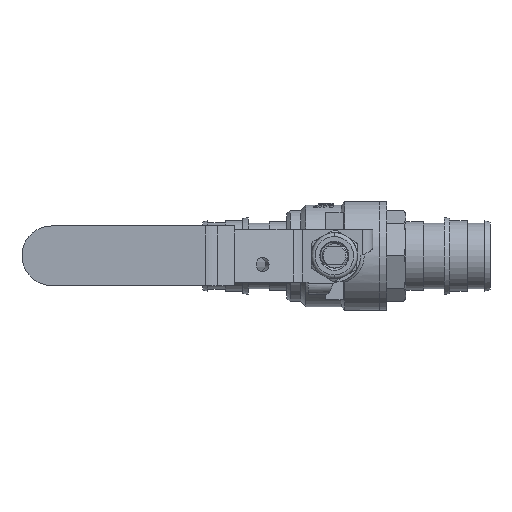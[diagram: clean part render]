
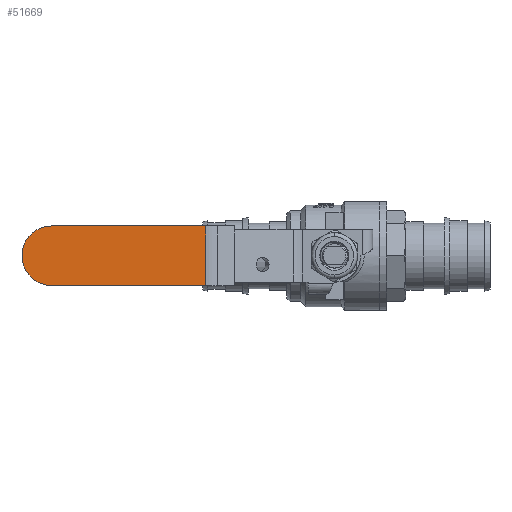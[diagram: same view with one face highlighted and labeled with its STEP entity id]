
A CAD part, top view. The second image highlights one B-rep face of the part: STEP entity #51669.
In plain terms, the highlighted planar face has unit normal (0, 0, 1).
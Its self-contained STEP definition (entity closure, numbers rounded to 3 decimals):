
#51153 = PLANE('',#51154);
#51154 = AXIS2_PLACEMENT_3D('',#51155,#51156,#51157);
#51155 = CARTESIAN_POINT('',(-36.668,-8.5,
    41.054));
#51156 = DIRECTION('',(0.,1.,0.));
#51157 = DIRECTION('',(0.,0.,-1.));
#51182 = CYLINDRICAL_SURFACE('',#51183,8.5);
#51183 = AXIS2_PLACEMENT_3D('',#51184,#51185,#51186);
#51184 = CARTESIAN_POINT('',(-80.604,0.,
    44.454));
#51185 = DIRECTION('',(0.,0.,-1.));
#51186 = DIRECTION('',(1.,0.,0.));
#51211 = CYLINDRICAL_SURFACE('',#51212,8.5);
#51212 = AXIS2_PLACEMENT_3D('',#51213,#51214,#51215);
#51213 = CARTESIAN_POINT('',(-80.604,0.,
    41.054));
#51214 = DIRECTION('',(0.,0.,1.));
#51215 = DIRECTION('',(-1.,0.,0.));
#51239 = PLANE('',#51240);
#51240 = AXIS2_PLACEMENT_3D('',#51241,#51242,#51243);
#51241 = CARTESIAN_POINT('',(-36.668,8.5,
    41.054));
#51242 = DIRECTION('',(0.,1.,0.));
#51243 = DIRECTION('',(0.,0.,-1.));
#51559 = CYLINDRICAL_SURFACE('',#51560,6.6);
#51560 = AXIS2_PLACEMENT_3D('',#51561,#51562,#51563);
#51561 = CARTESIAN_POINT('',(-36.668,-8.5,
    41.054));
#51562 = DIRECTION('',(0.,1.,0.));
#51563 = DIRECTION('',(0.,0.,-1.));
#51597 = VERTEX_POINT('',#51598);
#51598 = CARTESIAN_POINT('',(-36.668,8.5,
    47.654));
#51620 = EDGE_CURVE('',#51621,#51597,#51623,.T.);
#51621 = VERTEX_POINT('',#51622);
#51622 = CARTESIAN_POINT('',(-36.668,-8.5,
    47.654));
#51623 = SURFACE_CURVE('',#51624,(#51628,#51635),.PCURVE_S1.);
#51624 = LINE('',#51625,#51626);
#51625 = CARTESIAN_POINT('',(-36.668,-8.5,
    47.654));
#51626 = VECTOR('',#51627,1.);
#51627 = DIRECTION('',(0.,1.,0.));
#51628 = PCURVE('',#51559,#51629);
#51629 = DEFINITIONAL_REPRESENTATION('',(#51630),#51634);
#51630 = LINE('',#51631,#51632);
#51631 = CARTESIAN_POINT('',(3.142,0.));
#51632 = VECTOR('',#51633,1.);
#51633 = DIRECTION('',(0.,1.));
#51634 = ( GEOMETRIC_REPRESENTATION_CONTEXT(2) 
PARAMETRIC_REPRESENTATION_CONTEXT() REPRESENTATION_CONTEXT('2D SPACE',''
  ) );
#51635 = PCURVE('',#51636,#51641);
#51636 = PLANE('',#51637);
#51637 = AXIS2_PLACEMENT_3D('',#51638,#51639,#51640);
#51638 = CARTESIAN_POINT('',(-89.104,-8.5,
    47.654));
#51639 = DIRECTION('',(0.,0.,1.));
#51640 = DIRECTION('',(-1.,0.,0.));
#51641 = DEFINITIONAL_REPRESENTATION('',(#51642),#51646);
#51642 = LINE('',#51643,#51644);
#51643 = CARTESIAN_POINT('',(-52.436,-0.));
#51644 = VECTOR('',#51645,1.);
#51645 = DIRECTION('',(0.,-1.));
#51646 = ( GEOMETRIC_REPRESENTATION_CONTEXT(2) 
PARAMETRIC_REPRESENTATION_CONTEXT() REPRESENTATION_CONTEXT('2D SPACE',''
  ) );
#51669 = ADVANCED_FACE('',(#51670),#51636,.T.);
#51670 = FACE_BOUND('',#51671,.T.);
#51671 = EDGE_LOOP('',(#51672,#51698,#51722,#51743,#51744));
#51672 = ORIENTED_EDGE('',*,*,#51673,.T.);
#51673 = EDGE_CURVE('',#51674,#51676,#51678,.T.);
#51674 = VERTEX_POINT('',#51675);
#51675 = CARTESIAN_POINT('',(-80.604,8.5,
    47.654));
#51676 = VERTEX_POINT('',#51677);
#51677 = CARTESIAN_POINT('',(-89.104,0.,
    47.654));
#51678 = SURFACE_CURVE('',#51679,(#51684,#51691),.PCURVE_S1.);
#51679 = CIRCLE('',#51680,8.5);
#51680 = AXIS2_PLACEMENT_3D('',#51681,#51682,#51683);
#51681 = CARTESIAN_POINT('',(-80.604,0.,
    47.654));
#51682 = DIRECTION('',(0.,0.,1.));
#51683 = DIRECTION('',(-1.,0.,0.));
#51684 = PCURVE('',#51636,#51685);
#51685 = DEFINITIONAL_REPRESENTATION('',(#51686),#51690);
#51686 = CIRCLE('',#51687,8.5);
#51687 = AXIS2_PLACEMENT_2D('',#51688,#51689);
#51688 = CARTESIAN_POINT('',(-8.5,-8.5));
#51689 = DIRECTION('',(1.,0.));
#51690 = ( GEOMETRIC_REPRESENTATION_CONTEXT(2) 
PARAMETRIC_REPRESENTATION_CONTEXT() REPRESENTATION_CONTEXT('2D SPACE',''
  ) );
#51691 = PCURVE('',#51211,#51692);
#51692 = DEFINITIONAL_REPRESENTATION('',(#51693),#51697);
#51693 = LINE('',#51694,#51695);
#51694 = CARTESIAN_POINT('',(0.,6.6));
#51695 = VECTOR('',#51696,1.);
#51696 = DIRECTION('',(1.,0.));
#51697 = ( GEOMETRIC_REPRESENTATION_CONTEXT(2) 
PARAMETRIC_REPRESENTATION_CONTEXT() REPRESENTATION_CONTEXT('2D SPACE',''
  ) );
#51698 = ORIENTED_EDGE('',*,*,#51699,.T.);
#51699 = EDGE_CURVE('',#51676,#51700,#51702,.T.);
#51700 = VERTEX_POINT('',#51701);
#51701 = CARTESIAN_POINT('',(-80.604,-8.5,
    47.654));
#51702 = SURFACE_CURVE('',#51703,(#51708,#51715),.PCURVE_S1.);
#51703 = CIRCLE('',#51704,8.5);
#51704 = AXIS2_PLACEMENT_3D('',#51705,#51706,#51707);
#51705 = CARTESIAN_POINT('',(-80.604,0.,
    47.654));
#51706 = DIRECTION('',(0.,0.,1.));
#51707 = DIRECTION('',(-1.,0.,0.));
#51708 = PCURVE('',#51636,#51709);
#51709 = DEFINITIONAL_REPRESENTATION('',(#51710),#51714);
#51710 = CIRCLE('',#51711,8.5);
#51711 = AXIS2_PLACEMENT_2D('',#51712,#51713);
#51712 = CARTESIAN_POINT('',(-8.5,-8.5));
#51713 = DIRECTION('',(1.,0.));
#51714 = ( GEOMETRIC_REPRESENTATION_CONTEXT(2) 
PARAMETRIC_REPRESENTATION_CONTEXT() REPRESENTATION_CONTEXT('2D SPACE',''
  ) );
#51715 = PCURVE('',#51182,#51716);
#51716 = DEFINITIONAL_REPRESENTATION('',(#51717),#51721);
#51717 = LINE('',#51718,#51719);
#51718 = CARTESIAN_POINT('',(3.142,-3.2));
#51719 = VECTOR('',#51720,1.);
#51720 = DIRECTION('',(-1.,0.));
#51721 = ( GEOMETRIC_REPRESENTATION_CONTEXT(2) 
PARAMETRIC_REPRESENTATION_CONTEXT() REPRESENTATION_CONTEXT('2D SPACE',''
  ) );
#51722 = ORIENTED_EDGE('',*,*,#51723,.T.);
#51723 = EDGE_CURVE('',#51700,#51621,#51724,.T.);
#51724 = SURFACE_CURVE('',#51725,(#51729,#51736),.PCURVE_S1.);
#51725 = LINE('',#51726,#51727);
#51726 = CARTESIAN_POINT('',(-89.104,-8.5,
    47.654));
#51727 = VECTOR('',#51728,1.);
#51728 = DIRECTION('',(1.,0.,0.));
#51729 = PCURVE('',#51636,#51730);
#51730 = DEFINITIONAL_REPRESENTATION('',(#51731),#51735);
#51731 = LINE('',#51732,#51733);
#51732 = CARTESIAN_POINT('',(0.,-0.));
#51733 = VECTOR('',#51734,1.);
#51734 = DIRECTION('',(-1.,-0.));
#51735 = ( GEOMETRIC_REPRESENTATION_CONTEXT(2) 
PARAMETRIC_REPRESENTATION_CONTEXT() REPRESENTATION_CONTEXT('2D SPACE',''
  ) );
#51736 = PCURVE('',#51153,#51737);
#51737 = DEFINITIONAL_REPRESENTATION('',(#51738),#51742);
#51738 = LINE('',#51739,#51740);
#51739 = CARTESIAN_POINT('',(-6.6,52.436));
#51740 = VECTOR('',#51741,1.);
#51741 = DIRECTION('',(0.,-1.));
#51742 = ( GEOMETRIC_REPRESENTATION_CONTEXT(2) 
PARAMETRIC_REPRESENTATION_CONTEXT() REPRESENTATION_CONTEXT('2D SPACE',''
  ) );
#51743 = ORIENTED_EDGE('',*,*,#51620,.T.);
#51744 = ORIENTED_EDGE('',*,*,#51745,.F.);
#51745 = EDGE_CURVE('',#51674,#51597,#51746,.T.);
#51746 = SURFACE_CURVE('',#51747,(#51751,#51758),.PCURVE_S1.);
#51747 = LINE('',#51748,#51749);
#51748 = CARTESIAN_POINT('',(-89.104,8.5,
    47.654));
#51749 = VECTOR('',#51750,1.);
#51750 = DIRECTION('',(1.,0.,0.));
#51751 = PCURVE('',#51636,#51752);
#51752 = DEFINITIONAL_REPRESENTATION('',(#51753),#51757);
#51753 = LINE('',#51754,#51755);
#51754 = CARTESIAN_POINT('',(0.,-17.));
#51755 = VECTOR('',#51756,1.);
#51756 = DIRECTION('',(-1.,-0.));
#51757 = ( GEOMETRIC_REPRESENTATION_CONTEXT(2) 
PARAMETRIC_REPRESENTATION_CONTEXT() REPRESENTATION_CONTEXT('2D SPACE',''
  ) );
#51758 = PCURVE('',#51239,#51759);
#51759 = DEFINITIONAL_REPRESENTATION('',(#51760),#51764);
#51760 = LINE('',#51761,#51762);
#51761 = CARTESIAN_POINT('',(-6.6,52.436));
#51762 = VECTOR('',#51763,1.);
#51763 = DIRECTION('',(0.,-1.));
#51764 = ( GEOMETRIC_REPRESENTATION_CONTEXT(2) 
PARAMETRIC_REPRESENTATION_CONTEXT() REPRESENTATION_CONTEXT('2D SPACE',''
  ) );
